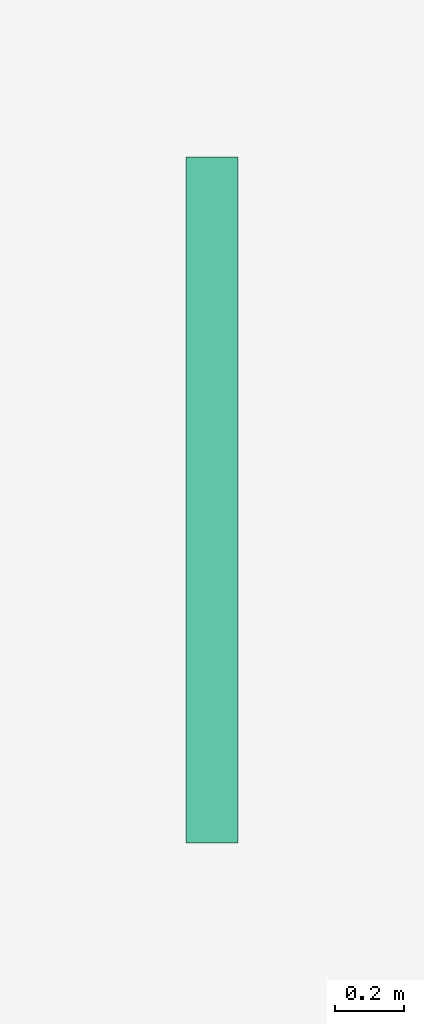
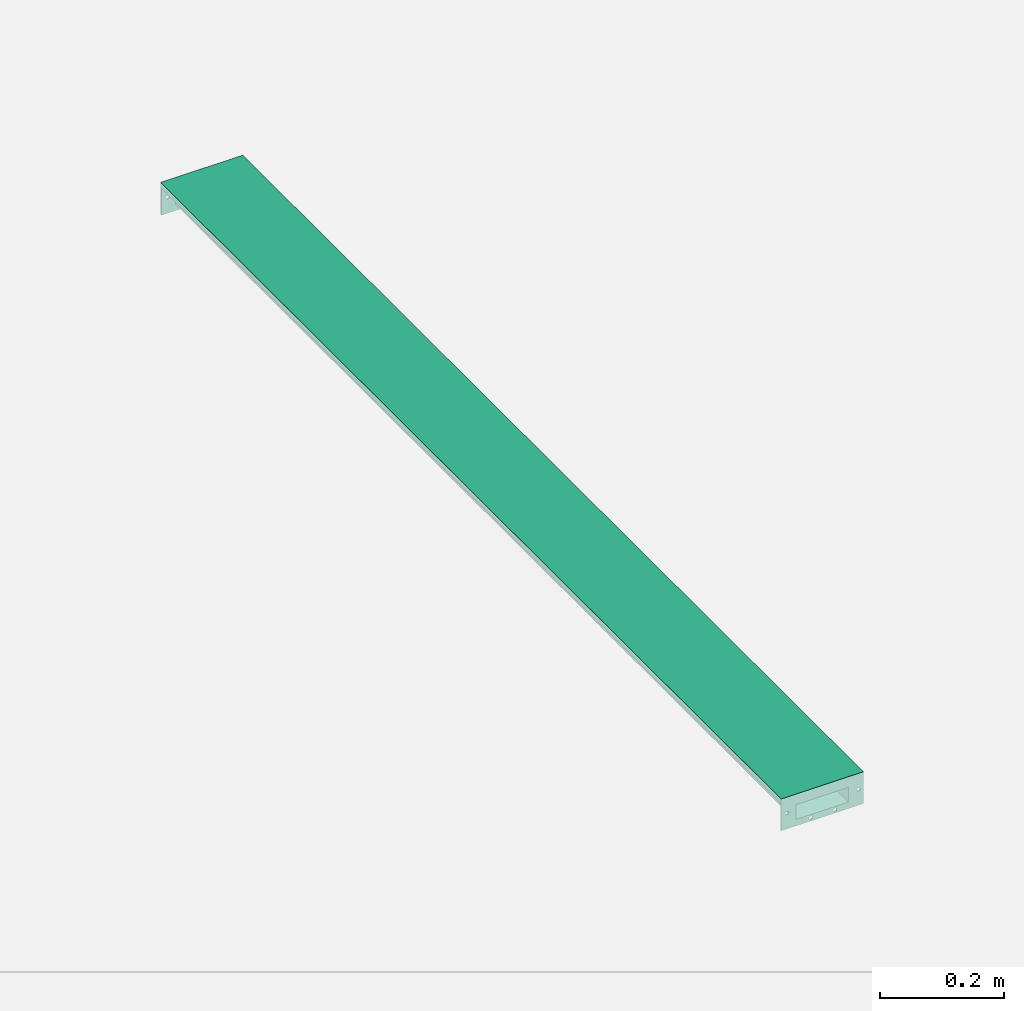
# One storey, part 2 of 2: 1 flow terminal.
"""IFC2X3 building model written with IfcOpenShell, lengths in millimetres."""

from ifc_helpers import new_model, entity, si_unit, converted_unit, direction, frame, frame_2d, origin, origin_2d_with_axis, place, context, subcontext, project, spatial, polyline, circle_curve, parameter, trimmed, segment, composite_curve, rectangle, outline, extrude, source, transform, mapped, material, material_list, element, save


model = new_model("IFC2X3")

# Units and contexts
model_context = context("Model", 3, precision=1e-06, world=origin(), true_north=direction((2.0, 6.12303176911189e-17, 1.0)))
context_of_model = context(None, 3, precision=1e-06, world=origin(), true_north=direction((2.0, 6.12303176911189e-17, 1.0)))
body_context = subcontext(model_context, "Body", "Model", "MODEL_VIEW")
ifc_project = project(units=[si_unit("LENGTHUNIT", "METRE", prefix="MILLI"), si_unit("AREAUNIT", "SQUARE_METRE", prefix="MILLI"), si_unit("VOLUMEUNIT", "CUBIC_METRE", prefix="MILLI"), converted_unit("PLANEANGLEUNIT", "DEGREE", entity("IfcRatioMeasure", 0.0174532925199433), si_unit("PLANEANGLEUNIT", "RADIAN"), dimensions=[0, 0, 0, 0, 0, 0, 0]), si_unit("TIMEUNIT", "SECOND")], contexts=[model_context, context_of_model])

# Site, building, storey
site_placement = place(None, origin())
site = spatial("IfcSite", under=ifc_project, at=site_placement, Name="Default", CompositionType="ELEMENT")
building_placement = place(site_placement, origin())
building = spatial("IfcBuilding", under=site, at=building_placement, CompositionType="ELEMENT")
storey_placement = place(building_placement, origin())
storey = spatial("IfcBuildingStorey", under=building, at=storey_placement, Name="Level 1", CompositionType="ELEMENT", Elevation=0.0)

# Flow terminal
ifc_material_1 = material(Name="Stainless Steel AISI 304")
ifc_material_2 = material(Name="Polystyrene, High Impact (F)")
ifc_material_list = material_list([ifc_material_1, ifc_material_2])
shared_shape = source(origin(), body_context, "Body", "SweptSolid", [
    extrude(rectangle(XDim=2000.0, YDim=124.999917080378, at=origin_2d_with_axis()), frame((4.14598109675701e-05, 1000.0, -21.0), z_axis=(0.0, 0.0, 1.0), x_axis=(0.0, 1.0, 0.0)), (0.0, 0.0, 1.0), 20.9999999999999),
    extrude(outline(polyline([(-76.5000276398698, -25.8000000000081), (-62.4999447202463, -25.8000000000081), (-62.4999447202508, -4.80000000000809), (-48.4999447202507, -4.80000000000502), (-48.499944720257, 24.199999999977), (48.499972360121, 24.199999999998), (48.4999723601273, -4.7999999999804), (62.4999723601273, -4.7999999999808), (62.4999723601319, -25.7999999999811), (76.4999723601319, -25.7999999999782), (76.4999723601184, 37.0), (-76.5000276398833, 37.0), (-76.5000276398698, -25.8000000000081)]), holes=[composite_curve([segment(trimmed(circle_curve(frame_2d((67.7349848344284, 6.09857254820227), x_axis=(1.0, 0.0)), 3.5), [parameter(0.0)], [parameter(180.0)], True, "PARAMETER"), False, "CONTINUOUS"), segment(trimmed(circle_curve(frame_2d((67.7349848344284, 6.09857254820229), x_axis=(1.0, 0.0)), 3.5), [parameter(180.0)], [parameter(0.0)], True, "PARAMETER"), False, "CONTINUOUS")], self_intersect=False), composite_curve([segment(trimmed(circle_curve(frame_2d((23.7349848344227, 30.9218749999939), x_axis=(1.0, 0.0)), 3.5), [parameter(0.0)], [parameter(180.0)], True, "PARAMETER"), False, "CONTINUOUS"), segment(trimmed(circle_curve(frame_2d((23.7349848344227, 30.9218749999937), x_axis=(1.0, 0.0)), 3.5), [parameter(180.0)], [parameter(0.0)], True, "PARAMETER"), False, "CONTINUOUS")], self_intersect=False), composite_curve([segment(trimmed(circle_curve(frame_2d((-21.2650151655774, 30.921874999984), x_axis=(1.0, 0.0)), 3.5), [parameter(180.0)], [parameter(1.52666624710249e-13)], True, "PARAMETER"), False, "CONTINUOUS"), segment(trimmed(circle_curve(frame_2d((-21.2650151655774, 30.9218749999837), x_axis=(1.0, 0.0)), 3.5), [parameter(360.0)], [parameter(180.0)], True, "PARAMETER"), False, "CONTINUOUS")], self_intersect=False), composite_curve([segment(trimmed(circle_curve(frame_2d((-65.2650151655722, 6.09857254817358), x_axis=(1.0, 0.0)), 3.5), [parameter(180.0)], [parameter(0.0)], True, "PARAMETER"), False, "CONTINUOUS"), segment(trimmed(circle_curve(frame_2d((-65.2650151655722, 6.09857254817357), x_axis=(1.0, 0.0)), 3.5), [parameter(0.0)], [parameter(180.0)], True, "PARAMETER"), False, "CONTINUOUS")], self_intersect=False)]), frame((2.7639875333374e-05, 1997.0, -25.8000000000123), z_axis=(0.0, 1.0, 0.0), x_axis=(1.0, 0.0, 0.0)), (0.0, 0.0, 1.0), 2.99999999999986),
    extrude(outline(polyline([(-76.4999585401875, -25.8000013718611), (-62.4999585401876, -25.8000013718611), (-62.4999585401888, -4.80000137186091), (-48.4999585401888, -4.8000013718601), (-48.4999585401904, 24.19999862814), (48.4999585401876, 24.1999986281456), (48.4999585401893, -4.80000137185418), (62.4999585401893, -4.80000137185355), (62.4999585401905, -25.8000013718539), (76.4999585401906, -25.8000013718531), (76.499958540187, 37.0000068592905), (-76.4999585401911, 37.0000068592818), (-76.4999585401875, -25.8000013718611)]), holes=[composite_curve([segment(trimmed(circle_curve(frame_2d((67.7349710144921, 6.09857117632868), x_axis=(1.0, 0.0)), 3.5), [parameter(0.0)], [parameter(180.0)], True, "PARAMETER"), False, "CONTINUOUS"), segment(trimmed(circle_curve(frame_2d((67.7349710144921, 6.0985711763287), x_axis=(1.0, 0.0)), 3.5), [parameter(180.0)], [parameter(360.0)], True, "PARAMETER"), False, "CONTINUOUS")], self_intersect=False), composite_curve([segment(trimmed(circle_curve(frame_2d((23.7349710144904, 30.9218818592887), x_axis=(1.0, 0.0)), 3.5), [parameter(0.0)], [parameter(180.0)], True, "PARAMETER"), False, "CONTINUOUS"), segment(trimmed(circle_curve(frame_2d((23.7349710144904, 30.9218818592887), x_axis=(1.0, 0.0)), 3.5), [parameter(180.0)], [parameter(360.0)], True, "PARAMETER"), False, "CONTINUOUS")], self_intersect=False), composite_curve([segment(trimmed(circle_curve(frame_2d((-21.2650289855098, 30.9218818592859), x_axis=(1.0, 0.0)), 3.5), [parameter(180.0)], [parameter(0.0)], True, "PARAMETER"), False, "CONTINUOUS"), segment(trimmed(circle_curve(frame_2d((-21.2650289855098, 30.9218818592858), x_axis=(1.0, 0.0)), 3.5), [parameter(360.0)], [parameter(180.0)], True, "PARAMETER"), False, "CONTINUOUS")], self_intersect=False), composite_curve([segment(trimmed(circle_curve(frame_2d((-65.2650289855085, 6.09857117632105), x_axis=(1.0, 0.0)), 3.5), [parameter(180.0)], [parameter(360.0)], True, "PARAMETER"), False, "CONTINUOUS"), segment(trimmed(circle_curve(frame_2d((-65.2650289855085, 6.09857117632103), x_axis=(1.0, 0.0)), 3.5), [parameter(0.0)], [parameter(180.0)], True, "PARAMETER"), False, "CONTINUOUS")], self_intersect=False)]), frame((4.14598109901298e-05, 0.0, -25.8000013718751), z_axis=(0.0, 1.0, 0.0), x_axis=(1.0, 0.0, 0.0)), (0.0, 0.0, 1.0), 3.0),
    extrude(outline(polyline([(-17.6243423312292, -62.4999585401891), (-17.6243423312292, -76.499958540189), (-7.62434233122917, -76.499958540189), (-7.62434233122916, -74.999958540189), (-16.1243423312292, -74.999958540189), (-16.1243423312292, -63.9999585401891), (4.87565766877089, -63.9999585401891), (4.87565766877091, -49.999958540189), (33.8717116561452, -49.999958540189), (33.8717116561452, 49.999958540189), (4.87565766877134, 49.999958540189), (4.87565766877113, 63.999958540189), (-16.124342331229, 63.9999585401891), (-16.1243423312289, 74.9999585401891), (-7.62434233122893, 74.9999585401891), (-7.62434233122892, 76.4999585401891), (-17.6243423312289, 76.4999585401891), (-17.624342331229, 62.4999585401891), (3.37565766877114, 62.499958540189), (3.37565766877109, 48.499958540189), (32.3717116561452, 48.499958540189), (32.3717116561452, -48.499958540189), (3.37565766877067, -48.499958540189), (3.37565766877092, -62.4999585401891), (-17.6243423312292, -62.4999585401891)])), frame((4.14598110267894e-05, 3.0, -17.6282883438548), z_axis=(0.0, -1.0, 0.0), x_axis=(0.0, 0.0, -1.0)), (0.0, 0.0, -1.0), 1994.0),
    extrude(rectangle(XDim=1997.0, YDim=11.0, at=frame_2d((-1.13686837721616e-13, 0.0), x_axis=(1.0, 0.0))), frame((69.5000000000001, 1001.5, -10.0), z_axis=(0.0, 0.0, 1.0), x_axis=(0.0, 1.0, 0.0)), (0.0, 0.0, 1.0), 8.50000000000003),
    extrude(rectangle(XDim=1997.0, YDim=10.9999999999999, at=frame_2d((-1.13686837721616e-13, 0.0), x_axis=(1.0, 0.0))), frame((-69.499917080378, 1001.5, -10.0), z_axis=(0.0, 0.0, 1.0), x_axis=(0.0, 1.0, 0.0)), (0.0, 0.0, 1.0), 8.50000000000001),
])
flow_terminal_placement = place(storey_placement, frame((-82.2883701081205, -967.950501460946, 0.0)))
element("IfcFlowTerminal", 1, at=flow_terminal_placement, inside=storey, material=ifc_material_list, Name="ACO BD Modular 125 Level Invert Straight Channels:105135 - Straight Channel - 2000mm LG - Invert Depth 50mm:105135 - Straight Channel - 2000mm LG - Invert Depth 50mm", ObjectType="105135 - Straight Channel - 2000mm LG - Invert Depth 50mm", context=body_context, shape_type="MappedRepresentation", body=[
    mapped(shared_shape, transform((0.0, 0.0, 0.0), scale=1.0)),
])

save(model, "model.ifc")
